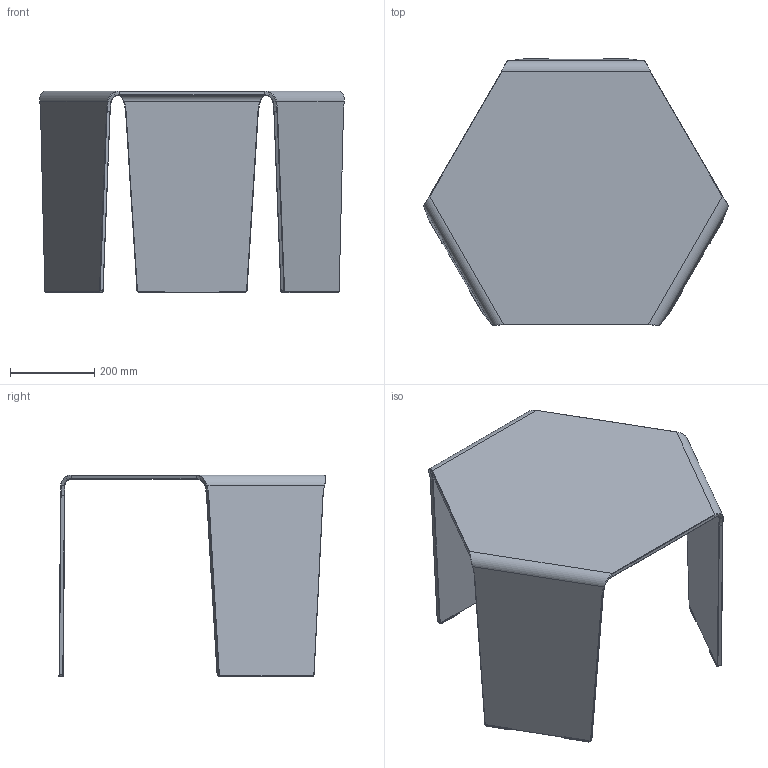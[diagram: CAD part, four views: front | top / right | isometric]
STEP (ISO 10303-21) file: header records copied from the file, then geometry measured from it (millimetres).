
FILE_DESCRIPTION((''),'2;1');
FILE_NAME('C:\AutodeskVault\AreaLavoro\Progetti\SoVeT Italia\2. Tavolini_Coffee tables\3Feet\Web file\3Feet Web\P4688.stp','2012-06-12T17:12:45',('Gianluca'),('So.Ve.T. s.r.l.'),'Autodesk Inventor 2013','Autodesk Inventor 2013','IL PROGETTO E'' DI ESCLUSIVA PROPRIETA'' DELLA SO.VE.T. srl. E'' VIETATA OGNI RIPRODUZIONE TOTALE O PARZIALE E QUALSIASI UTILIZZO NON AUTORIZZATO. ');
FILE_SCHEMA(('AUTOMOTIVE_DESIGN { 1 0 10303 214 1 1 1 1 }'));
Length unit declared in the file: millimetre
Products named in the file (1): P4688 Contorno semplificato
Bounding box: 724.71 x 634.55 x 479.97 mm (x, y, z)
Volume: 7416805.3 mm3; surface area: 1531439.8 mm2
Topology: 1 solids, 1 shells, 260 faces, 684 edges, 414 vertices
Faces by surface type: plane 110, cylinder 66, bspline 60, cone 24
Entity records: 16351 total; most frequent: CARTESIAN_POINT 9999, ORIENTED_EDGE 1368, DIRECTION 1098, EDGE_CURVE 684, VERTEX_POINT 414, VECTOR 408, LINE 408, AXIS2_PLACEMENT_3D 345
